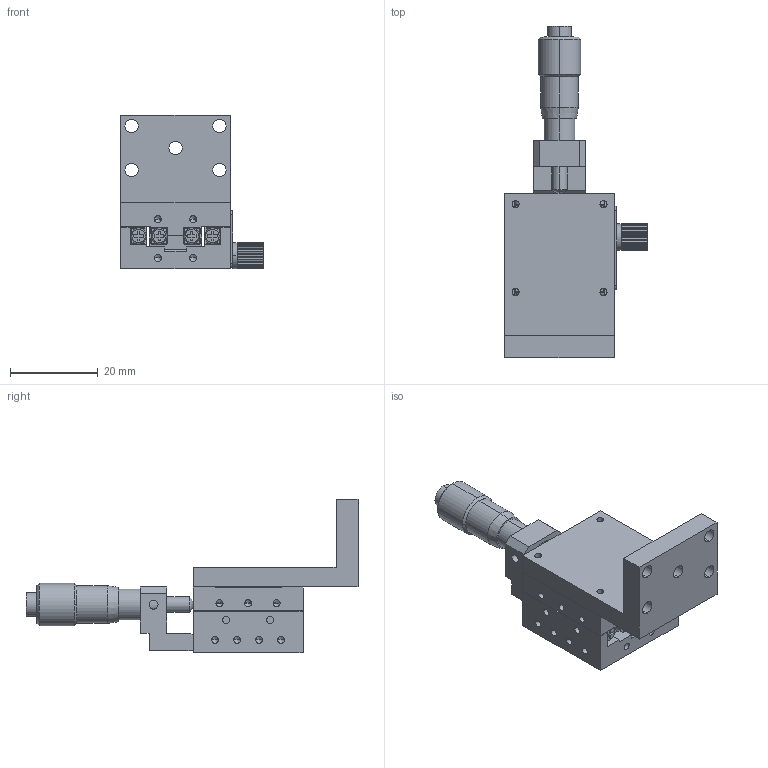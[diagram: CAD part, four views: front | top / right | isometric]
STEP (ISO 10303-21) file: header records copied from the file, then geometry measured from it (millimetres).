
FILE_DESCRIPTION (( 'STEP AP203' ), '1' );
FILE_NAME ('JCZ-25C.STEP', '2019-02-12T06:29:31', ( 'Windows 餌辨濠' ), ( '' ), 'SwSTEP 2.0', 'SolidWorks 2018', '' );
FILE_SCHEMA (( 'CONFIG_CONTROL_DESIGN' ));
Length unit declared in the file: millimetre
Products named in the file (11): JCZ-25C; FC-PL-19X13; FB-JCX-BK-Z-01; JALB-71-R; JCX-25CZ.SLDPRT; FB-JCX25-BD-03; FB-JCX25-BD-01; FB-JCX-BK-C-03; FC-SJ-2; FC-NB-6; JV1-20-5
Assembly tree (13 placements, depth 3):
  JCZ-25C
    FB-JCX-BK-Z-01
    JCX-25CZ.SLDPRT
      FB-JCX25-BD-03
      FB-JCX25-BD-01
      FB-JCX-BK-C-03
      FC-PL-19X13
      FC-NB-6
      JV1-20-5  x4
      JALB-71-R
      FC-SJ-2
Bounding box: 32.5 x 75.5 x 35 mm (x, y, z)
Volume: 16019.3 mm3; surface area: 13838.5 mm2
Topology: 12 solids, 12 shells, 862 faces, 2228 edges, 1381 vertices
Faces by surface type: cylinder 389, plane 385, cone 86, sphere 2
Entity records: 17661 total; most frequent: DIRECTION 3030, CARTESIAN_POINT 2898, ORIENTED_EDGE 2672, EDGE_CURVE 1336, AXIS2_PLACEMENT_3D 1165, VERTEX_POINT 865, LINE 700, VECTOR 700
